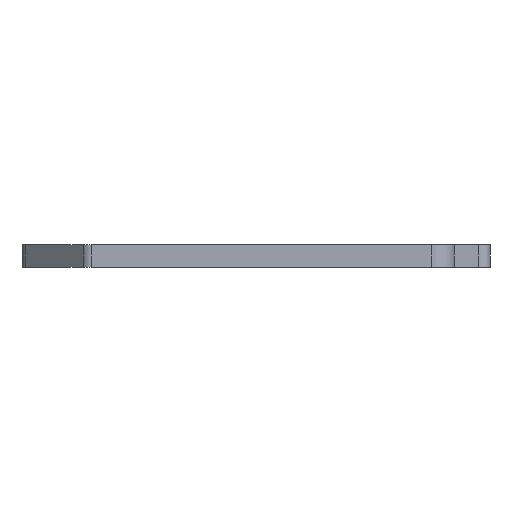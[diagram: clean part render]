
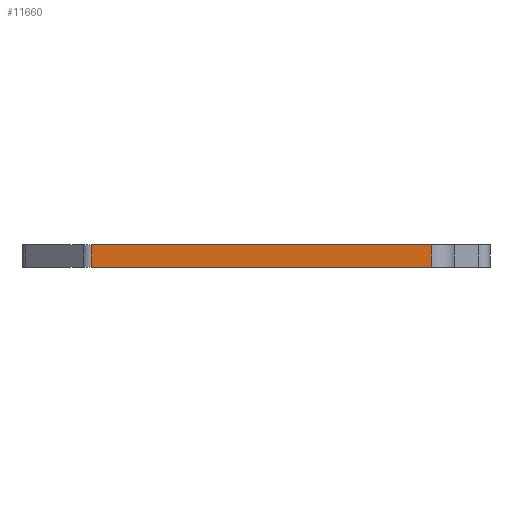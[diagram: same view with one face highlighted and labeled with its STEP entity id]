
A CAD part, left-side view. The second image highlights one B-rep face of the part: STEP entity #11660.
In plain terms, the highlighted planar face has unit normal (-1, 0, 0).
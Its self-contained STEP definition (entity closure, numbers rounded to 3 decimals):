
#2270=CARTESIAN_POINT('',(-30.546,-34.692,
13.25));
#2280=VERTEX_POINT('',#2270);
#2310=CARTESIAN_POINT('',(-30.546,-13.922,
13.25));
#2320=DIRECTION('',(0.,1.,0.));
#2330=VECTOR('',#2320,1.);
#2340=LINE('',#2310,#2330);
#2350=CARTESIAN_POINT('',(-30.546,-4.306,
13.25));
#2360=VERTEX_POINT('',#2350);
#2370=EDGE_CURVE('',#2280,#2360,#2340,.T.);
#8390=CARTESIAN_POINT('',(-30.546,-4.306,
11.25));
#8400=VERTEX_POINT('',#8390);
#8430=CARTESIAN_POINT('',(-30.546,-13.922,
11.25));
#8440=DIRECTION('',(0.,1.,0.));
#8450=VECTOR('',#8440,1.);
#8460=LINE('',#8430,#8450);
#8470=CARTESIAN_POINT('',(-30.546,-34.692,
11.25));
#8480=VERTEX_POINT('',#8470);
#8490=EDGE_CURVE('',#8480,#8400,#8460,.T.);
#11400=CARTESIAN_POINT('',(-30.546,-4.306,
11.25));
#11410=DIRECTION('',(0.,0.,1.));
#11420=VECTOR('',#11410,1.);
#11430=LINE('',#11400,#11420);
#11440=EDGE_CURVE('',#8400,#2360,#11430,.T.);
#11500=CARTESIAN_POINT('',(-30.546,-34.692,
11.25));
#11510=DIRECTION('',(-1.,0.,0.));
#11520=DIRECTION('',(0.,1.,0.));
#11530=AXIS2_PLACEMENT_3D('',#11500,#11510,#11520);
#11540=PLANE('',#11530);
#11550=ORIENTED_EDGE('',*,*,#11440,.F.);
#11560=ORIENTED_EDGE('',*,*,#2370,.T.);
#11570=CARTESIAN_POINT('',(-30.546,-34.692,
11.25));
#11580=DIRECTION('',(0.,0.,1.));
#11590=VECTOR('',#11580,1.);
#11600=LINE('',#11570,#11590);
#11610=EDGE_CURVE('',#8480,#2280,#11600,.T.);
#11620=ORIENTED_EDGE('',*,*,#11610,.T.);
#11630=ORIENTED_EDGE('',*,*,#8490,.F.);
#11640=EDGE_LOOP('',(#11630,#11620,#11560,#11550));
#11650=FACE_OUTER_BOUND('',#11640,.T.);
#11660=ADVANCED_FACE('',(#11650),#11540,.T.);
